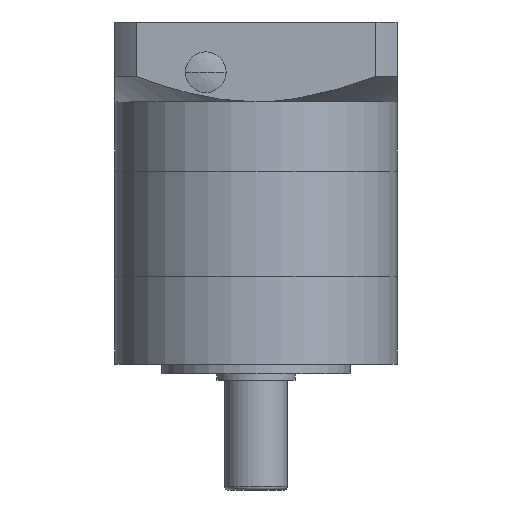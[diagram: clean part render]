
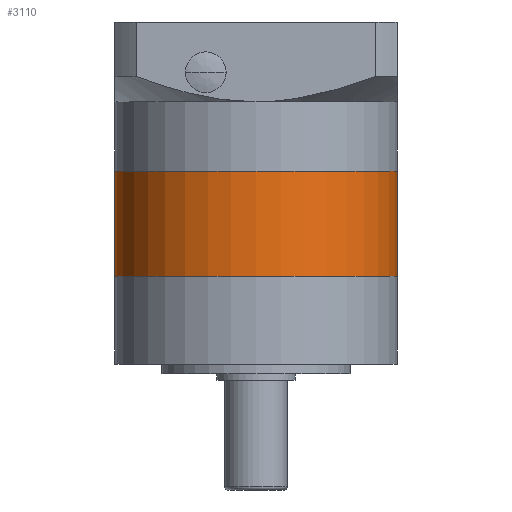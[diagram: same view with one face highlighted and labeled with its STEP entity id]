
A CAD part, front view. The second image highlights one B-rep face of the part: STEP entity #3110.
In plain terms, the highlighted cylindrical face has radius 45 mm (diameter 90 mm), a full revolution.
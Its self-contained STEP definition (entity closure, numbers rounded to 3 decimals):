
#563=FACE_BOUND('',#4774,.T.);
#564=FACE_BOUND('',#4775,.T.);
#1244=CYLINDRICAL_SURFACE('',#16883,45.);
#3110=ADVANCED_FACE('',(#563,#564),#1244,.T.);
#4774=EDGE_LOOP('',(#9376));
#4775=EDGE_LOOP('',(#9377));
#9376=ORIENTED_EDGE('',*,*,#13823,.T.);
#9377=ORIENTED_EDGE('',*,*,#13829,.T.);
#11640=VERTEX_POINT('',#32026);
#11646=VERTEX_POINT('',#32039);
#13823=EDGE_CURVE('',#11640,#11640,#15196,.T.);
#13829=EDGE_CURVE('',#11646,#11646,#15202,.T.);
#15196=CIRCLE('',#16874,45.);
#15202=CIRCLE('',#16881,45.);
#16874=AXIS2_PLACEMENT_3D('',#32025,#20544,#20545);
#16881=AXIS2_PLACEMENT_3D('',#32038,#20558,#20559);
#16883=AXIS2_PLACEMENT_3D('',#32041,#20562,#20563);
#20544=DIRECTION('',(0.,0.,1.));
#20545=DIRECTION('',(1.,0.,0.));
#20558=DIRECTION('',(0.,0.,-1.));
#20559=DIRECTION('',(1.,0.,0.));
#20562=DIRECTION('',(0.,0.,-1.));
#20563=DIRECTION('',(-1.,0.,0.));
#32025=CARTESIAN_POINT('',(-0.042,-1.945,31.));
#32026=CARTESIAN_POINT('',(44.958,-1.945,31.));
#32038=CARTESIAN_POINT('',(-0.042,-1.945,64.5));
#32039=CARTESIAN_POINT('',(44.958,-1.945,64.5));
#32041=CARTESIAN_POINT('',(-0.042,-1.945,64.5));
